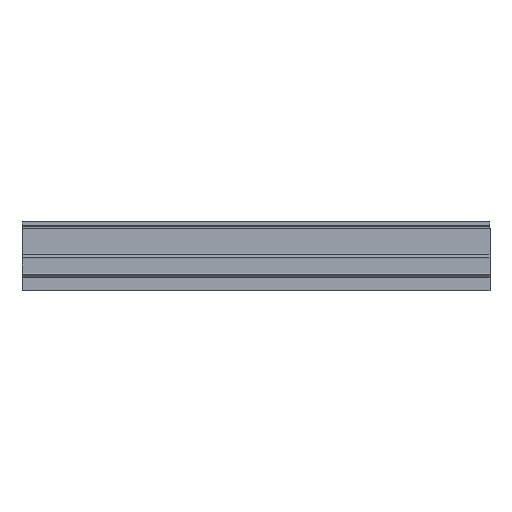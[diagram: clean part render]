
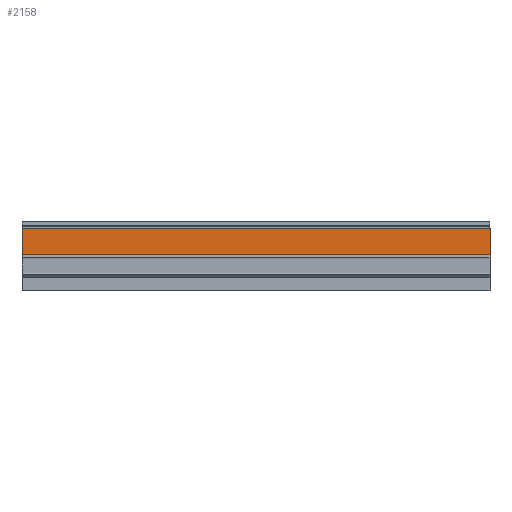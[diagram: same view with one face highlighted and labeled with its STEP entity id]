
A CAD part, front view. The second image highlights one B-rep face of the part: STEP entity #2158.
In plain terms, the highlighted planar face has unit normal (0, -1, 0).
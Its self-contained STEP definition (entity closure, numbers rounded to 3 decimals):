
#182=FACE_OUTER_BOUND('',#290,.T.);
#290=EDGE_LOOP('',(#1781,#1782,#1783,#1784));
#518=LINE('',#3404,#782);
#519=LINE('',#3407,#783);
#520=LINE('',#3409,#784);
#521=LINE('',#3410,#785);
#782=VECTOR('',#2779,200.);
#783=VECTOR('',#2782,11.55);
#784=VECTOR('',#2783,11.55);
#785=VECTOR('',#2784,200.);
#1005=VERTEX_POINT('',#3400);
#1006=VERTEX_POINT('',#3402);
#1007=VERTEX_POINT('',#3406);
#1008=VERTEX_POINT('',#3408);
#1290=EDGE_CURVE('',#1005,#1006,#518,.T.);
#1291=EDGE_CURVE('',#1007,#1005,#519,.T.);
#1292=EDGE_CURVE('',#1008,#1006,#520,.T.);
#1293=EDGE_CURVE('',#1007,#1008,#521,.T.);
#1781=ORIENTED_EDGE('',*,*,#1291,.T.);
#1782=ORIENTED_EDGE('',*,*,#1290,.T.);
#1783=ORIENTED_EDGE('',*,*,#1292,.F.);
#1784=ORIENTED_EDGE('',*,*,#1293,.F.);
#2056=PLANE('',#2306);
#2158=ADVANCED_FACE('',(#182),#2056,.T.);
#2306=AXIS2_PLACEMENT_3D('',#3405,#2780,#2781);
#2779=DIRECTION('',(1.,0.,0.));
#2780=DIRECTION('center_axis',(0.,-1.,0.));
#2781=DIRECTION('ref_axis',(0.,0.,-1.));
#2782=DIRECTION('',(0.,0.,-1.));
#2783=DIRECTION('',(0.,0.,-1.));
#2784=DIRECTION('',(1.,0.,0.));
#3400=CARTESIAN_POINT('',(0.,4.655,-11.749));
#3402=CARTESIAN_POINT('',(200.,4.655,-11.749));
#3404=CARTESIAN_POINT('',(0.,4.655,-11.749));
#3405=CARTESIAN_POINT('Origin',(0.,4.655,-0.199));
#3406=CARTESIAN_POINT('',(0.,4.655,-0.199));
#3407=CARTESIAN_POINT('',(0.,4.655,-0.199));
#3408=CARTESIAN_POINT('',(200.,4.655,-0.199));
#3409=CARTESIAN_POINT('',(200.,4.655,-0.199));
#3410=CARTESIAN_POINT('',(0.,4.655,-0.199));
